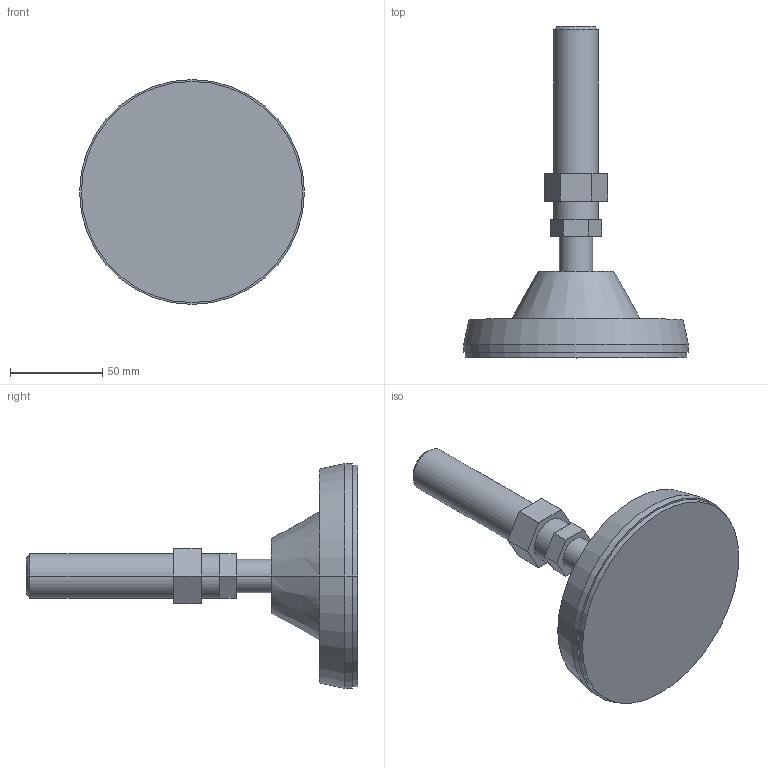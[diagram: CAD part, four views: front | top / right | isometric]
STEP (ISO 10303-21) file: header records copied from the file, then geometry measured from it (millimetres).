
FILE_DESCRIPTION((''),'2;1');
FILE_NAME('SUP12024','2002-12-27T',('Lipro doo'),('Lipro d.o.o.'),'PRO/ENGINEER BY PARAMETRIC TECHNOLOGY CORPORATION, 2001150','PRO/ENGINEER BY PARAMETRIC TECHNOLOGY CORPORATION, 2001150','');
FILE_SCHEMA(('CONFIG_CONTROL_DESIGN'));
Length unit declared in the file: millimetre
Products named in the file (1): SUP12024
Bounding box: 122 x 180 x 122 mm (x, y, z)
Volume: 362349.2 mm3; surface area: 51048.2 mm2
Topology: 1 solids, 2 shells, 44 faces, 98 edges, 62 vertices
Faces by surface type: plane 26, cylinder 12, cone 6
Entity records: 1264 total; most frequent: DIRECTION 226, CARTESIAN_POINT 205, ORIENTED_EDGE 192, EDGE_CURVE 98, AXIS2_PLACEMENT_3D 83, VERTEX_POINT 62, VECTOR 60, LINE 60
